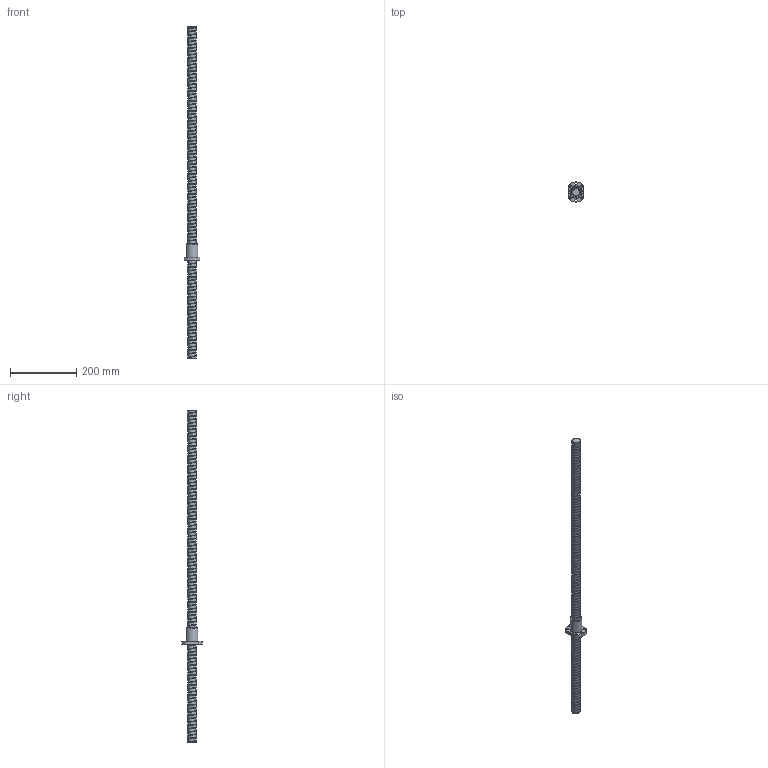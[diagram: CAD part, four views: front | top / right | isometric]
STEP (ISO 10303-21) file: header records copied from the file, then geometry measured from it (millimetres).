
FILE_DESCRIPTION (( 'STEP AP214' ), '1' );
FILE_NAME ('152370.STEP', '2024-05-10T08:51:16', ( '' ), ( '' ), 'SwSTEP 2.0', 'SolidWorks 2023', '' );
FILE_SCHEMA (( 'AUTOMOTIVE_DESIGN' ));
Length unit declared in the file: millimetre
Products named in the file (3): 152370; 01.T.04.003.152370-1^152370_dft; 01.T.04.003.152379-1^152370_dft
Assembly tree (2 placements, depth 2):
  152370
    01.T.04.003.152379-1^152370_dft
    01.T.04.003.152370-1^152370_dft
Bounding box: 48 x 61.8 x 1000 mm (x, y, z)
Volume: 549756.6 mm3; surface area: 186943 mm2
Topology: 2 solids, 2 shells, 124 faces, 326 edges, 216 vertices
Faces by surface type: plane 94, bspline 13, cylinder 11, cone 6
Full cylindrical faces by diameter (mm): 6.6 x6, 7.7 x1, 36 x1
Entity records: 21304 total; most frequent: CARTESIAN_POINT 18293, ORIENTED_EDGE 620, DIRECTION 534, EDGE_CURVE 310, VECTOR 246, LINE 246, VERTEX_POINT 210, EDGE_LOOP 156
